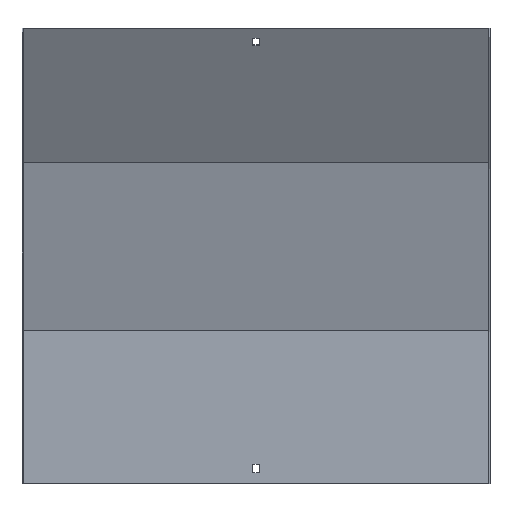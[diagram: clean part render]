
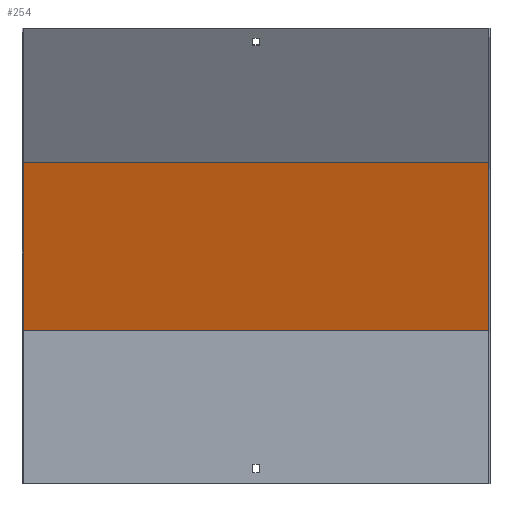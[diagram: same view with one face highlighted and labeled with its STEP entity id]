
A CAD part, front view. The second image highlights one B-rep face of the part: STEP entity #254.
In plain terms, the highlighted planar face has unit normal (0, -0.966, -0.259).
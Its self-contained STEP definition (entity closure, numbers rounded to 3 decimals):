
#55 = VECTOR ( 'NONE', #371, 1000. ) ;
#68 = ORIENTED_EDGE ( 'NONE', *, *, #277, .F. ) ;
#100 = EDGE_CURVE ( 'NONE', #569, #368, #334, .T. ) ;
#125 = VECTOR ( 'NONE', #136, 1000. ) ;
#136 = DIRECTION ( 'NONE',  ( -1., 0., 0. ) ) ;
#137 = CARTESIAN_POINT ( 'NONE',  ( -250., 18.5, 165.436 ) ) ;
#217 = EDGE_CURVE ( 'NONE', #569, #743, #776, .T. ) ;
#254 = ADVANCED_FACE ( 'NONE', ( #837 ), #839, .T. ) ;
#277 = EDGE_CURVE ( 'NONE', #368, #670, #687, .T. ) ;
#295 = ORIENTED_EDGE ( 'NONE', *, *, #217, .T. ) ;
#334 = LINE ( 'NONE', #598, #465 ) ;
#339 = CARTESIAN_POINT ( 'NONE',  ( -250., -29.866, 345.939 ) ) ;
#368 = VERTEX_POINT ( 'NONE', #137 ) ;
#371 = DIRECTION ( 'NONE',  ( 0., -0.259, 0.966 ) ) ;
#393 = ORIENTED_EDGE ( 'NONE', *, *, #503, .T. ) ;
#465 = VECTOR ( 'NONE', #818, 1000. ) ;
#474 = CARTESIAN_POINT ( 'NONE',  ( 250., -29.866, 345.939 ) ) ;
#484 = CARTESIAN_POINT ( 'NONE',  ( 251.5, 17.87, 167.788 ) ) ;
#503 = EDGE_CURVE ( 'NONE', #743, #670, #733, .T. ) ;
#569 = VERTEX_POINT ( 'NONE', #652 ) ;
#591 = CARTESIAN_POINT ( 'NONE',  ( 250., 58.62, 15.707 ) ) ;
#598 = CARTESIAN_POINT ( 'NONE',  ( 251.5, 18.5, 165.436 ) ) ;
#609 = ORIENTED_EDGE ( 'NONE', *, *, #100, .F. ) ;
#632 = DIRECTION ( 'NONE',  ( 0., -0.966, -0.259 ) ) ;
#634 = EDGE_LOOP ( 'NONE', ( #68, #609, #295, #393 ) ) ;
#652 = CARTESIAN_POINT ( 'NONE',  ( 250., 18.5, 165.436 ) ) ;
#669 = VECTOR ( 'NONE', #780, 1000. ) ;
#670 = VERTEX_POINT ( 'NONE', #339 ) ;
#687 = LINE ( 'NONE', #699, #669 ) ;
#699 = CARTESIAN_POINT ( 'NONE',  ( -250., 58.62, 15.707 ) ) ;
#724 = CARTESIAN_POINT ( 'NONE',  ( 251.5, -29.866, 345.939 ) ) ;
#733 = LINE ( 'NONE', #724, #125 ) ;
#743 = VERTEX_POINT ( 'NONE', #474 ) ;
#750 = DIRECTION ( 'NONE',  ( 0., 0.259, -0.966 ) ) ;
#776 = LINE ( 'NONE', #591, #55 ) ;
#780 = DIRECTION ( 'NONE',  ( 0., -0.259, 0.966 ) ) ;
#807 = AXIS2_PLACEMENT_3D ( 'NONE', #484, #632, #750 ) ;
#818 = DIRECTION ( 'NONE',  ( -1., 0., 0. ) ) ;
#837 = FACE_OUTER_BOUND ( 'NONE', #634, .T. ) ;
#839 = PLANE ( 'NONE',  #807 ) ;
